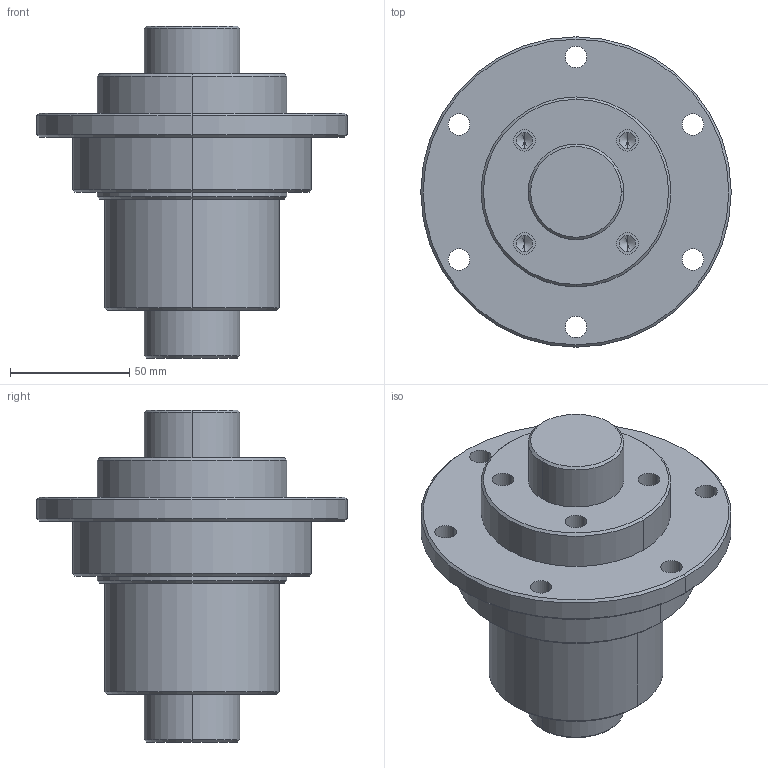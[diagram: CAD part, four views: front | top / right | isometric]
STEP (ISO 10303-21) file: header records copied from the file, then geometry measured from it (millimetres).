
FILE_DESCRIPTION (( 'STEP AP203' ), '1' );
FILE_NAME ('RFSY4040.STEP', '2014-11-13T05:14:07', ( '' ), ( '' ), 'SwSTEP 2.0', 'SolidWorks 2014', '' );
FILE_SCHEMA (( 'CONFIG_CONTROL_DESIGN' ));
Length unit declared in the file: millimetre
Products named in the file (1): RFSY4040
Bounding box: 130 x 130 x 139 mm (x, y, z)
Volume: 646462.8 mm3; surface area: 84840.4 mm2
Topology: 2 solids, 2 shells, 78 faces, 174 edges, 104 vertices
Faces by surface type: cylinder 42, cone 24, plane 12
Entity records: 2233 total; most frequent: DIRECTION 424, CARTESIAN_POINT 349, ORIENTED_EDGE 332, AXIS2_PLACEMENT_3D 179, EDGE_CURVE 166, VERTEX_POINT 104, EDGE_LOOP 104, CIRCLE 100
